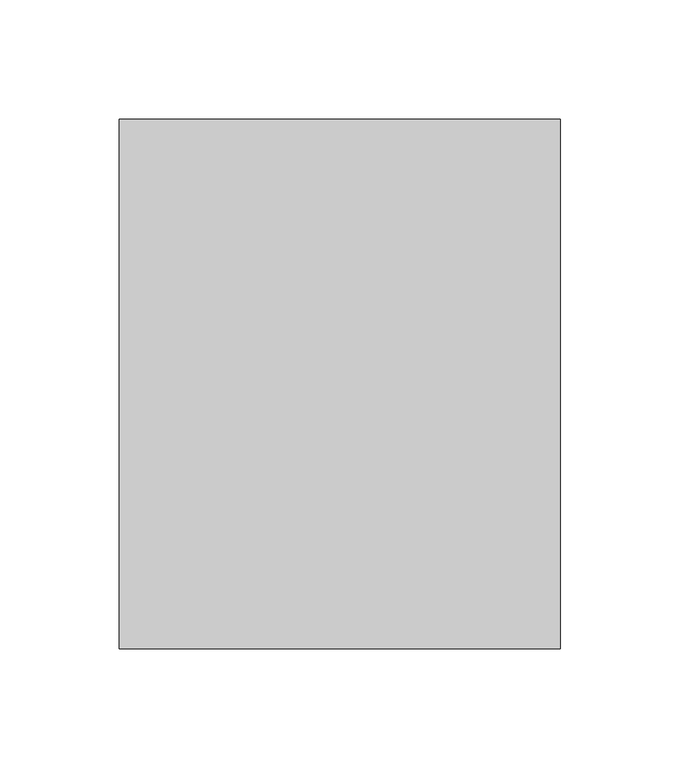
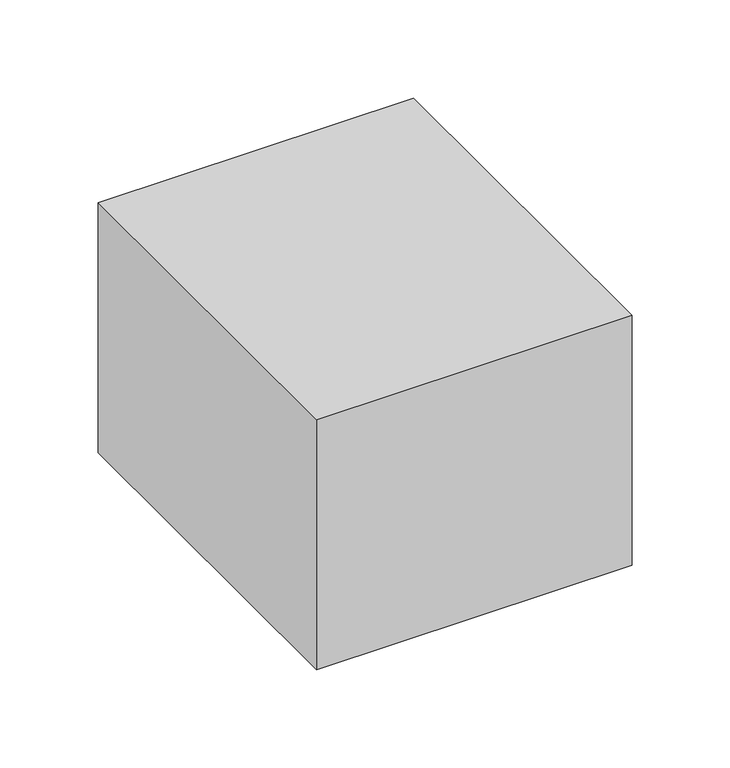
"""IFC4 building model written with IfcOpenShell, lengths in millimetres: light fixture geometry,  219 :  212279."""

from ifc_helpers import new_model, si_unit, frame, origin, place, context, project, spatial, polyline, outline, extrude, source, transform, mapped, element, save


def light_fixture_d6bf5405(model_context):
    return source(origin(), model_context, "Body", "SweptSolid", [
        extrude(outline(polyline([(14161.4746511, -544.4378255), (14346.4746511, -544.4378255), (14346.4746511, -766.4378255), (14161.4746511, -766.4378255), (14161.4746511, -544.4378255)])), frame((0.0, 0.0, 1375.0), z_axis=(0.0, 0.0, 1.0), x_axis=(1.0, 0.0, 0.0)), (0.0, 0.0, 1.0), 155.0),
    ])


if __name__ == "__main__":
    model = new_model("IFC4")
    model_context = context("Model", 3, world=origin())
    ifc_project = project(units=[si_unit("LENGTHUNIT", "METRE", prefix="MILLI")], contexts=[model_context])
    site = spatial("IfcSite", under=ifc_project)
    building = spatial("IfcBuilding", under=site)
    placement = place(None, origin())
    light_fixture_shape = light_fixture_d6bf5405(model_context)
    element("IfcLightFixture", 1, ObjectType=" 219 :  212279", at=placement, inside=building, context=model_context, shape_type="MappedRepresentation", body=[
        mapped(light_fixture_shape, transform((0.0, 0.0, 0.0), x_axis=(1.0, 0.0, 0.0), y_axis=(0.0, 1.0, 0.0), z_axis=(0.0, 0.0, 1.0))),
    ])
    save(model, "model.ifc")
